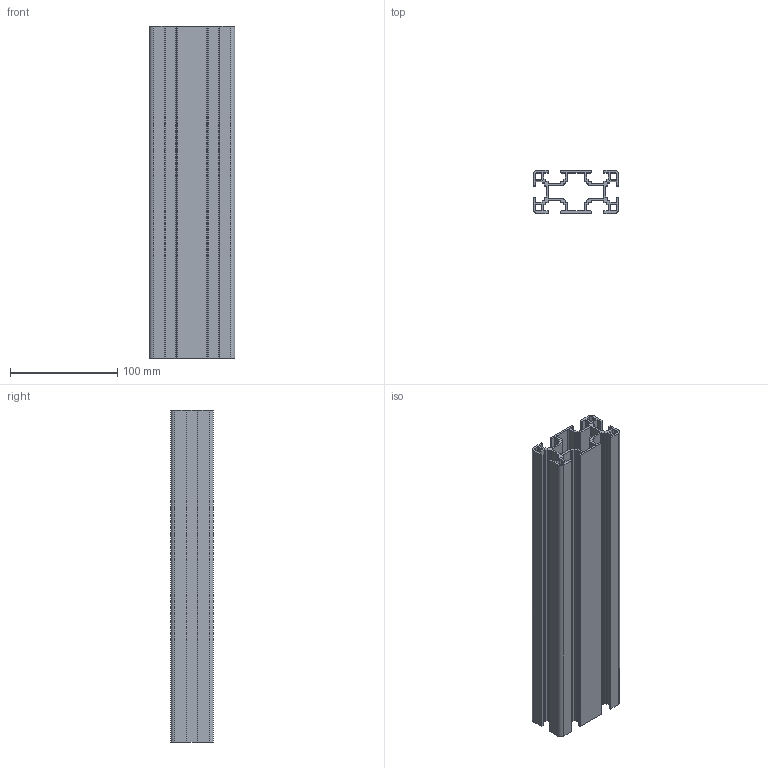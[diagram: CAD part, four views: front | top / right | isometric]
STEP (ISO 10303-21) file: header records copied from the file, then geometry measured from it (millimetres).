
FILE_DESCRIPTION((''),'2;1');
FILE_NAME('X:\Ritarkiv\STEP-Carryline Standarddelar\100-1020.stp','2009-05-26T09:53:04',('marcus'),(''),'Autodesk Inventor 2009','Autodesk Inventor 2009','');
FILE_SCHEMA(('AUTOMOTIVE_DESIGN { 1 0 10303 214 1 1 1 1 }'));
Length unit declared in the file: millimetre
Products named in the file (2): Assembly4; 100-1020-01
Assembly tree (1 placements, depth 2):
  Assembly4
    100-1020-01
Bounding box: 80 x 40 x 310 mm (x, y, z)
Volume: 243669.7 mm3; surface area: 229496.1 mm2
Topology: 1 solids, 1 shells, 234 faces, 696 edges, 464 vertices
Faces by surface type: plane 146, cylinder 88
Entity records: 7928 total; most frequent: CARTESIAN_POINT 1397, ORIENTED_EDGE 1392, DIRECTION 1346, EDGE_CURVE 696, VECTOR 520, LINE 520, VERTEX_POINT 464, AXIS2_PLACEMENT_3D 413
